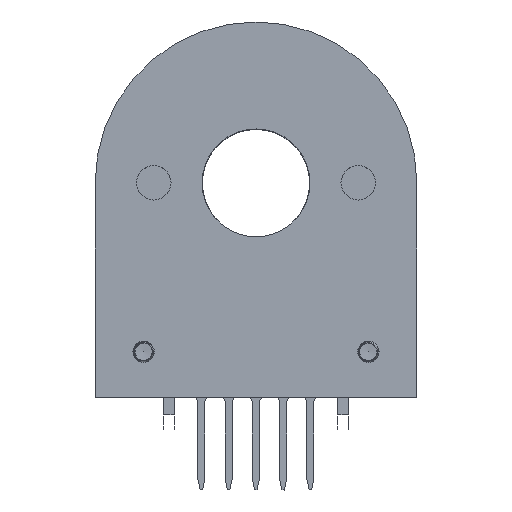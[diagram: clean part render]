
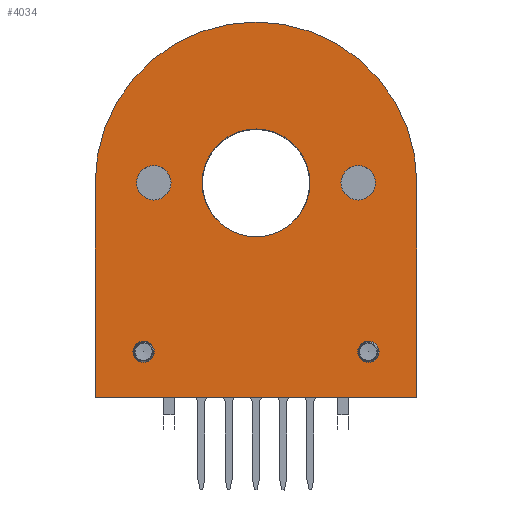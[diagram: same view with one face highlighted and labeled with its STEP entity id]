
A CAD part, top view. The second image highlights one B-rep face of the part: STEP entity #4034.
In plain terms, the highlighted planar face has unit normal (0, 0, 1).
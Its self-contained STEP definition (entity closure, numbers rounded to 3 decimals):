
#25 = ORIENTED_EDGE ( 'NONE', *, *, #16434, .T. ) ;
#84 = DIRECTION ( 'NONE',  ( 0., 0., -1. ) ) ;
#1236 = EDGE_LOOP ( 'NONE', ( #13312 ) ) ;
#1540 = LINE ( 'NONE', #10886, #19080 ) ;
#1668 = FACE_BOUND ( 'NONE', #1236, .T. ) ;
#1737 = VERTEX_POINT ( 'NONE', #3108 ) ;
#1996 = DIRECTION ( 'NONE',  ( 0., 0., 1. ) ) ;
#2105 = EDGE_LOOP ( 'NONE', ( #8305 ) ) ;
#2190 = FACE_BOUND ( 'NONE', #5924, .T. ) ;
#2332 = VERTEX_POINT ( 'NONE', #15180 ) ;
#2673 = CARTESIAN_POINT ( 'NONE',  ( 9.48, -16.045, 0. ) ) ;
#2743 = CARTESIAN_POINT ( 'NONE',  ( 15., -20.295, 0. ) ) ;
#2953 = VERTEX_POINT ( 'NONE', #16732 ) ;
#3108 = CARTESIAN_POINT ( 'NONE',  ( -15., -20.295, 0. ) ) ;
#3208 = CARTESIAN_POINT ( 'NONE',  ( 10.48, -16.045, 0. ) ) ;
#3575 = DIRECTION ( 'NONE',  ( 1., 0., 0. ) ) ;
#3591 = CARTESIAN_POINT ( 'NONE',  ( 9.525, -0.295, 0. ) ) ;
#3645 = DIRECTION ( 'NONE',  ( 1., 0., 0. ) ) ;
#3722 = DIRECTION ( 'NONE',  ( 1., 0., 0. ) ) ;
#3939 = ORIENTED_EDGE ( 'NONE', *, *, #9562, .T. ) ;
#4034 = ADVANCED_FACE ( 'NONE', ( #2190, #5777, #20875, #6336, #1668, #7160 ), #15942, .T. ) ;
#4565 = CARTESIAN_POINT ( 'NONE',  ( 5.025, -0.295, 0. ) ) ;
#4688 = AXIS2_PLACEMENT_3D ( 'NONE', #3591, #84, #5307 ) ;
#4709 = CARTESIAN_POINT ( 'NONE',  ( -15., -0.295, 0. ) ) ;
#4761 = EDGE_LOOP ( 'NONE', ( #12380 ) ) ;
#4875 = ORIENTED_EDGE ( 'NONE', *, *, #9565, .T. ) ;
#5043 = DIRECTION ( 'NONE',  ( -1., 0., 0. ) ) ;
#5240 = CARTESIAN_POINT ( 'NONE',  ( -10.48, -16.045, 0. ) ) ;
#5307 = DIRECTION ( 'NONE',  ( -1., 0., 0. ) ) ;
#5518 = ORIENTED_EDGE ( 'NONE', *, *, #21484, .T. ) ;
#5777 = FACE_BOUND ( 'NONE', #13531, .T. ) ;
#5924 = EDGE_LOOP ( 'NONE', ( #19292 ) ) ;
#6167 = EDGE_CURVE ( 'NONE', #19643, #19643, #14106, .T. ) ;
#6336 = FACE_BOUND ( 'NONE', #4761, .T. ) ;
#6397 = DIRECTION ( 'NONE',  ( 0., 1., 0. ) ) ;
#7160 = FACE_OUTER_BOUND ( 'NONE', #7287, .T. ) ;
#7209 = CARTESIAN_POINT ( 'NONE',  ( 0., -0.295, 0. ) ) ;
#7287 = EDGE_LOOP ( 'NONE', ( #5518, #4875, #16799, #3939 ) ) ;
#7349 = CARTESIAN_POINT ( 'NONE',  ( -9.525, -0.295, 0. ) ) ;
#8167 = EDGE_CURVE ( 'NONE', #2332, #2332, #10122, .T. ) ;
#8281 = CIRCLE ( 'NONE', #11534, 1. ) ;
#8305 = ORIENTED_EDGE ( 'NONE', *, *, #8167, .T. ) ;
#8397 = DIRECTION ( 'NONE',  ( -1., 0., 0. ) ) ;
#9049 = DIRECTION ( 'NONE',  ( 0., 0., 1. ) ) ;
#9087 = DIRECTION ( 'NONE',  ( 1., 0., 0. ) ) ;
#9562 = EDGE_CURVE ( 'NONE', #2953, #9952, #10887, .T. ) ;
#9565 = EDGE_CURVE ( 'NONE', #1737, #16367, #1540, .T. ) ;
#9869 = CARTESIAN_POINT ( 'NONE',  ( -11.125, -0.295, 0. ) ) ;
#9952 = VERTEX_POINT ( 'NONE', #4709 ) ;
#9971 = EDGE_CURVE ( 'NONE', #19907, #19907, #8281, .T. ) ;
#10122 = CIRCLE ( 'NONE', #12318, 1. ) ;
#10154 = DIRECTION ( 'NONE',  ( 0., 0., -1. ) ) ;
#10486 = EDGE_CURVE ( 'NONE', #16367, #2953, #16945, .T. ) ;
#10886 = CARTESIAN_POINT ( 'NONE',  ( -15., -20.295, 0. ) ) ;
#10887 = CIRCLE ( 'NONE', #13859, 15. ) ;
#11295 = VECTOR ( 'NONE', #11801, 1000. ) ;
#11311 = AXIS2_PLACEMENT_3D ( 'NONE', #7349, #19124, #5043 ) ;
#11534 = AXIS2_PLACEMENT_3D ( 'NONE', #3208, #17009, #18633 ) ;
#11750 = CIRCLE ( 'NONE', #11311, 1.6 ) ;
#11801 = DIRECTION ( 'NONE',  ( 0., -1., 0. ) ) ;
#12318 = AXIS2_PLACEMENT_3D ( 'NONE', #5240, #10154, #8397 ) ;
#12380 = ORIENTED_EDGE ( 'NONE', *, *, #9971, .T. ) ;
#13115 = AXIS2_PLACEMENT_3D ( 'NONE', #7209, #15988, #3575 ) ;
#13191 = EDGE_CURVE ( 'NONE', #14418, #14418, #15032, .T. ) ;
#13203 = CARTESIAN_POINT ( 'NONE',  ( 7.925, -0.295, 0. ) ) ;
#13312 = ORIENTED_EDGE ( 'NONE', *, *, #13191, .F. ) ;
#13531 = EDGE_LOOP ( 'NONE', ( #25 ) ) ;
#13629 = LINE ( 'NONE', #13690, #11295 ) ;
#13690 = CARTESIAN_POINT ( 'NONE',  ( -15., -20.295, 0. ) ) ;
#13859 = AXIS2_PLACEMENT_3D ( 'NONE', #19738, #9049, #3722 ) ;
#14106 = CIRCLE ( 'NONE', #4688, 1.6 ) ;
#14418 = VERTEX_POINT ( 'NONE', #4565 ) ;
#15032 = CIRCLE ( 'NONE', #13115, 5.025 ) ;
#15180 = CARTESIAN_POINT ( 'NONE',  ( -11.48, -16.045, 0. ) ) ;
#15942 = PLANE ( 'NONE',  #18081 ) ;
#15988 = DIRECTION ( 'NONE',  ( 0., 0., 1. ) ) ;
#16367 = VERTEX_POINT ( 'NONE', #18507 ) ;
#16434 = EDGE_CURVE ( 'NONE', #20759, #20759, #11750, .T. ) ;
#16732 = CARTESIAN_POINT ( 'NONE',  ( 15., -0.295, 0. ) ) ;
#16799 = ORIENTED_EDGE ( 'NONE', *, *, #10486, .T. ) ;
#16945 = LINE ( 'NONE', #2743, #21373 ) ;
#17009 = DIRECTION ( 'NONE',  ( 0., 0., -1. ) ) ;
#18081 = AXIS2_PLACEMENT_3D ( 'NONE', #21327, #1996, #9087 ) ;
#18507 = CARTESIAN_POINT ( 'NONE',  ( 15., -20.295, 0. ) ) ;
#18633 = DIRECTION ( 'NONE',  ( -1., 0., 0. ) ) ;
#19080 = VECTOR ( 'NONE', #3645, 1000. ) ;
#19124 = DIRECTION ( 'NONE',  ( 0., 0., -1. ) ) ;
#19292 = ORIENTED_EDGE ( 'NONE', *, *, #6167, .T. ) ;
#19643 = VERTEX_POINT ( 'NONE', #13203 ) ;
#19738 = CARTESIAN_POINT ( 'NONE',  ( 0., -0.295, 0. ) ) ;
#19907 = VERTEX_POINT ( 'NONE', #2673 ) ;
#20759 = VERTEX_POINT ( 'NONE', #9869 ) ;
#20875 = FACE_BOUND ( 'NONE', #2105, .T. ) ;
#21327 = CARTESIAN_POINT ( 'NONE',  ( 0., -0.295, 0. ) ) ;
#21373 = VECTOR ( 'NONE', #6397, 1000. ) ;
#21484 = EDGE_CURVE ( 'NONE', #9952, #1737, #13629, .T. ) ;
